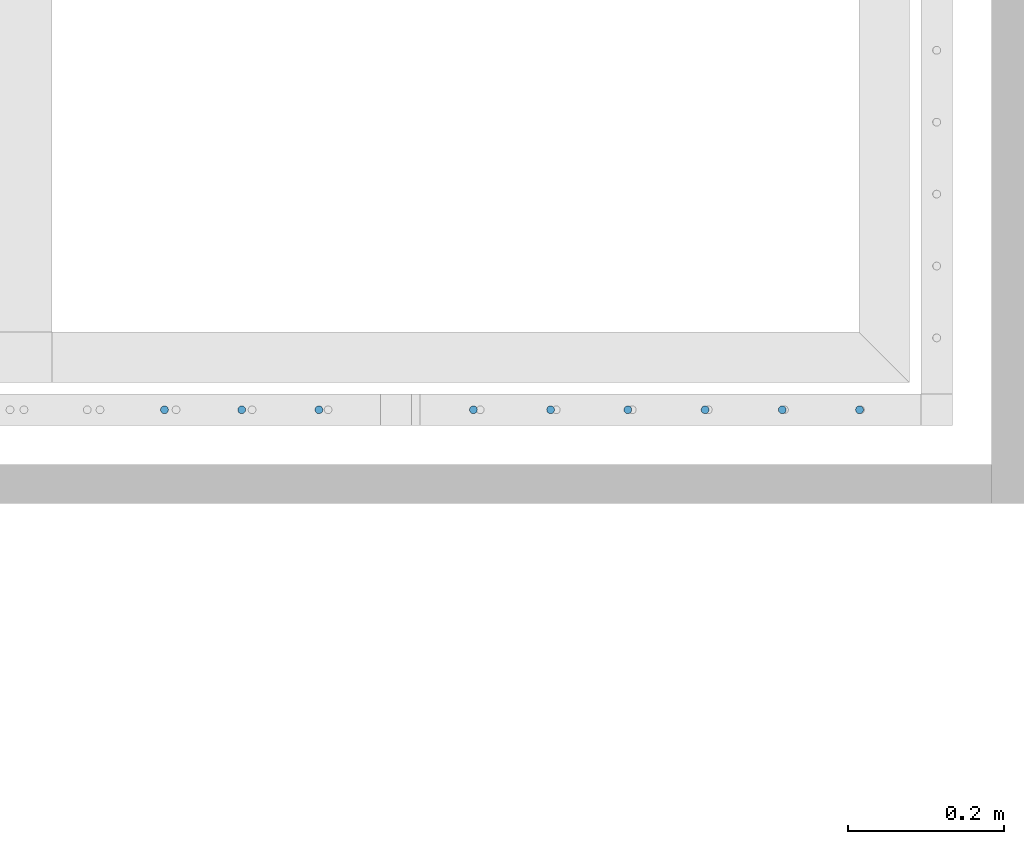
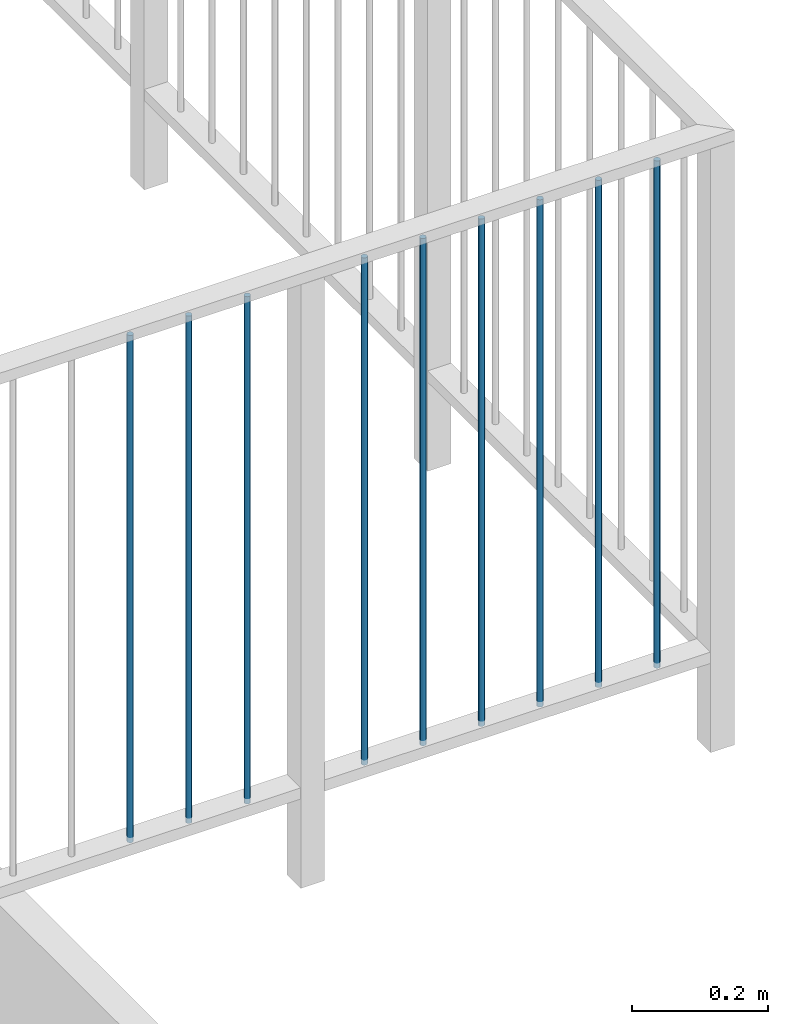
# One storey, part 36 of 135: 9 members, 1 element without a shape of its own.
"""IFC2X3 building model written with IfcOpenShell, lengths in millimetres."""

from ifc_helpers import new_model, entity, si_unit, converted_unit, derived_unit, money_unit, direction, frame, origin_with_axes, place, context, subcontext, project, spatial, faceted_brep, source, transform, mapped, material, type_object, type_shapes, element, aggregate, save


model = new_model("IFC2X3")

# Units and contexts
model_context = context("Model", 3, precision=0.01, world=origin_with_axes(), true_north=direction((0.0, 1.0)))
body_context = subcontext(model_context, "Body", "Model", "MODEL_VIEW")
ifc_project = project(units=[si_unit("LENGTHUNIT", "METRE", prefix="MILLI"), si_unit("AREAUNIT", "SQUARE_METRE"), si_unit("VOLUMEUNIT", "CUBIC_METRE"), converted_unit("PLANEANGLEUNIT", "DEGREE", entity("IfcPlaneAngleMeasure", 0.0174532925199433), si_unit("PLANEANGLEUNIT", "RADIAN"), dimensions=[0, 0, 0, 0, 0, 0, 0]), money_unit("EUR"), converted_unit("TIMEUNIT", "Year", entity("IfcTimeMeasure", 31557600.0), si_unit("TIMEUNIT", "SECOND"), dimensions=[0, 0, 1, 0, 0, 0, 0]), si_unit("MASSUNIT", "GRAM", prefix="KILO"), si_unit("THERMODYNAMICTEMPERATUREUNIT", "DEGREE_CELSIUS"), si_unit("LUMINOUSINTENSITYUNIT", "LUMEN"), si_unit("ENERGYUNIT", "JOULE", prefix="MEGA"), derived_unit("THERMALCONDUCTANCEUNIT", [(si_unit("POWERUNIT", "WATT"), 1), (si_unit("LENGTHUNIT", "METRE"), -1), (si_unit("THERMODYNAMICTEMPERATUREUNIT", "KELVIN"), -1)]), derived_unit("SPECIFICHEATCAPACITYUNIT", [(si_unit("ENERGYUNIT", "JOULE"), 1), (si_unit("MASSUNIT", "GRAM", prefix="KILO"), -1), (si_unit("THERMODYNAMICTEMPERATUREUNIT", "KELVIN"), -1)]), derived_unit("MASSDENSITYUNIT", [(si_unit("MASSUNIT", "GRAM", prefix="KILO"), 1), (si_unit("VOLUMEUNIT", "CUBIC_METRE"), -1)])], contexts=[model_context])

# Site, building, storey
site_placement = place(None, origin_with_axes())
site = spatial("IfcSite", under=ifc_project, at=site_placement, Name="Site", CompositionType="ELEMENT")
building_placement = place(site_placement, origin_with_axes())
building = spatial("IfcBuilding", under=site, at=building_placement, Name="Naam gebouw", CompositionType="ELEMENT")
storey_placement = place(building_placement, origin_with_axes())
storey = spatial("IfcBuildingStorey", under=building, at=storey_placement, Name="Begane grond N", CompositionType="ELEMENT", Elevation=0.0)

# Railing, members
railing_type = type_object("IfcRailingType", Name="Railing Type", PredefinedType="NOTDEFINED")
railing_placement = place(storey_placement, frame((56236.62159597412, 21185.9124251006, 4176.0), z_axis=(0.0, 0.0, 1.0), x_axis=(1.0, 0.0, 0.0)))
railing = element("IfcRailing", 1, at=railing_placement, inside=storey, type_object=railing_type, Name="_Reling-x", PredefinedType="NOTDEFINED")
ifc_material = material(Name="Metaal - Staal C")
member_type = type_object("IfcMemberType", Name="IfcMember", PredefinedType="MEMBER")
shared_shape = source(origin_with_axes(), body_context, "Body", "Brep", [
    faceted_brep([(0.0, -5.0, 0.0), (0.8682408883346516, -4.92403876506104, 0.0), (0.868240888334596, -4.92403876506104, 907.5000000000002), (0.0, -5.0, 907.5000000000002), (-0.868240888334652, -4.92403876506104, 0.0), (-1.710100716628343, -4.698463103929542, 0.0), (-2.500000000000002, -4.330127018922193, 0.0), (-3.213938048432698, -3.830222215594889, 0.0), (-3.830222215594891, -3.213938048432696, 0.0), (-4.330127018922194, -2.5, 0.0), (-4.698463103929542, -1.710100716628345, 0.0), (-4.924038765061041, -0.86824088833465, 0.0), (-5.0, 0.0, 0.0), (-4.92403876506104, 0.8682408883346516, 0.0), (-4.698463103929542, 1.710100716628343, 0.0), (-4.330127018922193, 2.500000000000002, 0.0), (-3.83022221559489, 3.213938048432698, 0.0), (-3.213938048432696, 3.83022221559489, 0.0), (-2.5, 4.330127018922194, 0.0), (-1.710100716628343, 4.698463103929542, 0.0), (-0.8682408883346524, 4.92403876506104, 0.0), (0.0, 5.0, 0.0), (0.8682408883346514, 4.92403876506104, 0.0), (1.710100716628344, 4.698463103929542, 0.0), (2.5, 4.330127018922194, 0.0), (3.213938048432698, 3.83022221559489, 0.0), (3.83022221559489, 3.213938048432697, 0.0), (4.330127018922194, 2.499999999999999, 0.0), (4.698463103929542, 1.710100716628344, 0.0), (4.92403876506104, 0.8682408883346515, 0.0), (5.0, 0.0, 0.0), (4.92403876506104, -0.8682408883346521, 0.0), (4.698463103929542, -1.710100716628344, 0.0), (4.330127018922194, -2.5, 0.0), (3.83022221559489, -3.213938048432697, 0.0), (3.213938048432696, -3.83022221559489, 0.0), (2.5, -4.330127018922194, 0.0), (1.710100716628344, -4.698463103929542, 0.0), (1.710100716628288, -4.698463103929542, 907.5000000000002), (2.499999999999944, -4.330127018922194, 907.5000000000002), (3.213938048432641, -3.83022221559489, 907.5000000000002), (3.830222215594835, -3.213938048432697, 907.5000000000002), (4.330127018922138, -2.5, 907.5000000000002), (4.698463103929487, -1.710100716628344, 907.5000000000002), (4.924038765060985, -0.8682408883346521, 907.5000000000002), (4.999999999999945, 0.0, 907.5000000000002), (4.924038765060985, 0.8682408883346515, 907.5000000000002), (4.698463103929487, 1.710100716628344, 907.5000000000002), (4.330127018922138, 2.499999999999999, 907.5000000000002), (3.830222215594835, 3.213938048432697, 907.5000000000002), (3.213938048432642, 3.83022221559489, 907.5000000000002), (2.499999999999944, 4.330127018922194, 907.5000000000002), (1.710100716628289, 4.698463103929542, 907.5000000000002), (0.8682408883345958, 4.92403876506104, 907.5000000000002), (0.0, 5.0, 907.5000000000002), (-0.868240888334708, 4.92403876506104, 907.5000000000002), (-1.710100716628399, 4.698463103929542, 907.5000000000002), (-2.500000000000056, 4.330127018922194, 907.5000000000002), (-3.213938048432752, 3.83022221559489, 907.5000000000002), (-3.830222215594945, 3.213938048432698, 907.5000000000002), (-4.330127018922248, 2.500000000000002, 907.5000000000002), (-4.698463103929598, 1.710100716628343, 907.5000000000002), (-4.924038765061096, 0.8682408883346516, 907.5000000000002), (-5.000000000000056, 0.0, 907.5000000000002), (-4.924038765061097, -0.86824088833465, 907.5000000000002), (-4.698463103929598, -1.710100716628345, 907.5000000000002), (-4.330127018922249, -2.5, 907.5000000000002), (-3.830222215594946, -3.213938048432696, 907.5000000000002), (-3.213938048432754, -3.830222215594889, 907.5000000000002), (-2.500000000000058, -4.330127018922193, 907.5000000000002), (-1.710100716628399, -4.698463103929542, 907.5000000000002), (-0.8682408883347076, -4.92403876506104, 907.5000000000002)], [[[0, 1, 2, 3]], [[0, 4, 5, 6, 7, 8, 9, 10, 11, 12, 13, 14, 15, 16, 17, 18, 19, 20, 21, 22, 23, 24, 25, 26, 27, 28, 29, 30, 31, 32, 33, 34, 35, 36, 37, 1]], [[1, 37, 38, 2]], [[3, 2, 38, 39, 40, 41, 42, 43, 44, 45, 46, 47, 48, 49, 50, 51, 52, 53, 54, 55, 56, 57, 58, 59, 60, 61, 62, 63, 64, 65, 66, 67, 68, 69, 70, 71]], [[4, 0, 3, 71]], [[5, 4, 71, 70]], [[6, 5, 70, 69]], [[7, 6, 69, 68]], [[8, 7, 68, 67]], [[9, 8, 67, 66]], [[10, 9, 66, 65]], [[11, 10, 65, 64]], [[12, 11, 64, 63]], [[13, 12, 63, 62]], [[14, 13, 62, 61]], [[15, 14, 61, 60]], [[16, 15, 60, 59]], [[17, 16, 59, 58]], [[18, 17, 58, 57]], [[19, 18, 57, 56]], [[20, 19, 56, 55]], [[21, 20, 55, 54]], [[22, 21, 54, 53]], [[23, 22, 53, 52]], [[24, 23, 52, 51]], [[25, 24, 51, 50]], [[26, 25, 50, 49]], [[27, 26, 49, 48]], [[28, 27, 48, 47]], [[29, 28, 47, 46]], [[30, 29, 46, 45]], [[31, 30, 45, 44]], [[32, 31, 44, 43]], [[33, 32, 43, 42]], [[34, 33, 42, 41]], [[35, 34, 41, 40]], [[36, 35, 40, 39]], [[37, 36, 39, 38]]]),
])
type_shapes(member_type, [shared_shape])
member_1_placement = place(railing_placement, frame((2917.745586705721, -24.99999999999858, 1806.673611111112), z_axis=(0.0, 0.0, 1.0), x_axis=(1.0, 0.0, 0.0)))
member_1 = element("IfcMember", 2, at=member_1_placement, type_object=member_type, material=ifc_material, Name="_Spijlen-x", ObjectType="MEMBER", context=body_context, shape_type="MappedRepresentation", body=[
    mapped(shared_shape, transform((0.0, 0.0, 0.0), x_axis=(0.0, -1.0, 0.0), y_axis=(1.0, 0.0, 0.0), z_axis=(0.0, 0.0, 1.0))),
])
member_2_placement = place(railing_placement, frame((3016.808868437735, -24.99999999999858, 1806.673611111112), z_axis=(0.0, 0.0, 1.0), x_axis=(1.0, 0.0, 0.0)))
member_2 = element("IfcMember", 3, at=member_2_placement, type_object=member_type, material=ifc_material, Name="_Spijlen-x", ObjectType="MEMBER", context=body_context, shape_type="MappedRepresentation", body=[
    mapped(shared_shape, transform((0.0, 0.0, 0.0), x_axis=(0.0, -1.0, 0.0), y_axis=(1.0, 0.0, 0.0), z_axis=(0.0, 0.0, 1.0))),
])
member_3_placement = place(railing_placement, frame((3115.87215016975, -24.99999999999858, 1806.673611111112), z_axis=(0.0, 0.0, 1.0), x_axis=(1.0, 0.0, 0.0)))
member_3 = element("IfcMember", 4, at=member_3_placement, type_object=member_type, material=ifc_material, Name="_Spijlen-x", ObjectType="MEMBER", context=body_context, shape_type="MappedRepresentation", body=[
    mapped(shared_shape, transform((0.0, 0.0, 0.0), x_axis=(0.0, -1.0, 0.0), y_axis=(1.0, 0.0, 0.0), z_axis=(0.0, 0.0, 1.0))),
])
member_4_placement = place(railing_placement, frame((3313.99871363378, -24.99999999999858, 1806.673611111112), z_axis=(0.0, 0.0, 1.0), x_axis=(1.0, 0.0, 0.0)))
member_4 = element("IfcMember", 5, at=member_4_placement, type_object=member_type, material=ifc_material, Name="_Spijlen-x", ObjectType="MEMBER", context=body_context, shape_type="MappedRepresentation", body=[
    mapped(shared_shape, transform((0.0, 0.0, 0.0), x_axis=(0.0, -1.0, 0.0), y_axis=(1.0, 0.0, 0.0), z_axis=(0.0, 0.0, 1.0))),
])
member_5_placement = place(railing_placement, frame((3413.061995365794, -24.99999999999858, 1806.673611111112), z_axis=(0.0, 0.0, 1.0), x_axis=(1.0, 0.0, 0.0)))
member_5 = element("IfcMember", 6, at=member_5_placement, type_object=member_type, material=ifc_material, Name="_Spijlen-x", ObjectType="MEMBER", context=body_context, shape_type="MappedRepresentation", body=[
    mapped(shared_shape, transform((0.0, 0.0, 0.0), x_axis=(0.0, -1.0, 0.0), y_axis=(1.0, 0.0, 0.0), z_axis=(0.0, 0.0, 1.0))),
])
member_6_placement = place(railing_placement, frame((3512.125277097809, -24.99999999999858, 1806.673611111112), z_axis=(0.0, 0.0, 1.0), x_axis=(1.0, 0.0, 0.0)))
member_6 = element("IfcMember", 7, at=member_6_placement, type_object=member_type, material=ifc_material, Name="_Spijlen-x", ObjectType="MEMBER", context=body_context, shape_type="MappedRepresentation", body=[
    mapped(shared_shape, transform((0.0, 0.0, 0.0), x_axis=(0.0, -1.0, 0.0), y_axis=(1.0, 0.0, 0.0), z_axis=(0.0, 0.0, 1.0))),
])
member_7_placement = place(railing_placement, frame((3611.188558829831, -24.99999999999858, 1806.673611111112), z_axis=(0.0, 0.0, 1.0), x_axis=(1.0, 0.0, 0.0)))
member_7 = element("IfcMember", 8, at=member_7_placement, type_object=member_type, material=ifc_material, Name="_Spijlen-x", ObjectType="MEMBER", context=body_context, shape_type="MappedRepresentation", body=[
    mapped(shared_shape, transform((0.0, 0.0, 0.0), x_axis=(0.0, -1.0, 0.0), y_axis=(1.0, 0.0, 0.0), z_axis=(0.0, 0.0, 1.0))),
])
member_8_placement = place(railing_placement, frame((3710.251840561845, -24.99999999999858, 1806.673611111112), z_axis=(0.0, 0.0, 1.0), x_axis=(1.0, 0.0, 0.0)))
member_8 = element("IfcMember", 9, at=member_8_placement, type_object=member_type, material=ifc_material, Name="_Spijlen-x", ObjectType="MEMBER", context=body_context, shape_type="MappedRepresentation", body=[
    mapped(shared_shape, transform((0.0, 0.0, 0.0), x_axis=(0.0, -1.0, 0.0), y_axis=(1.0, 0.0, 0.0), z_axis=(0.0, 0.0, 1.0))),
])
member_9_placement = place(railing_placement, frame((3809.31512229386, -24.99999999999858, 1806.673611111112), z_axis=(0.0, 0.0, 1.0), x_axis=(1.0, 0.0, 0.0)))
member_9 = element("IfcMember", 10, at=member_9_placement, type_object=member_type, material=ifc_material, Name="_Spijlen-x", ObjectType="MEMBER", context=body_context, shape_type="MappedRepresentation", body=[
    mapped(shared_shape, transform((0.0, 0.0, 0.0), x_axis=(0.0, -1.0, 0.0), y_axis=(1.0, 0.0, 0.0), z_axis=(0.0, 0.0, 1.0))),
])
aggregate(railing, [member_1, member_2, member_3, member_4, member_5, member_6, member_7, member_8, member_9])

save(model, "model.ifc")
